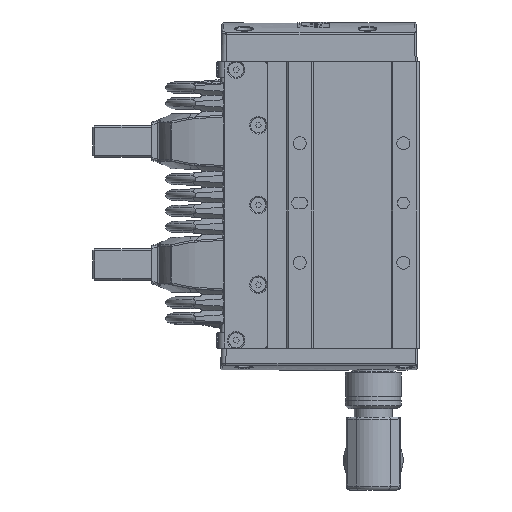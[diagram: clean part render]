
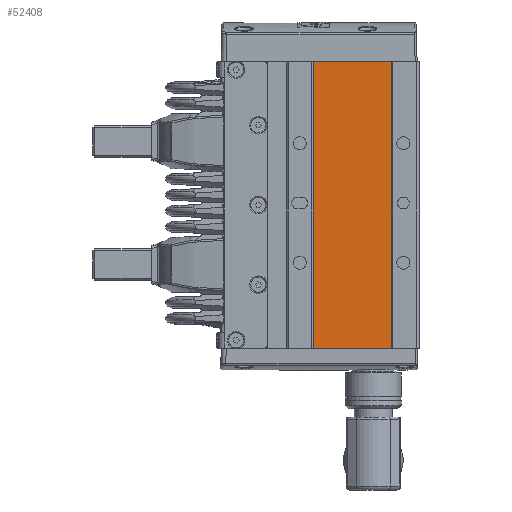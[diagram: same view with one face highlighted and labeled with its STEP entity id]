
A CAD part, left-side view. The second image highlights one B-rep face of the part: STEP entity #52408.
In plain terms, the highlighted planar face has unit normal (-1, 0, 0).
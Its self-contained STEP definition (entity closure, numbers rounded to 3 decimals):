
#7103=LINE('',#116846,#10510);
#7121=LINE('',#116900,#10528);
#7141=LINE('',#116938,#10548);
#7142=LINE('',#116940,#10549);
#10510=VECTOR('',#66042,1000.);
#10528=VECTOR('',#66090,1000.);
#10548=VECTOR('',#66116,1000.);
#10549=VECTOR('',#66119,1000.);
#13929=FACE_OUTER_BOUND('',#16903,.T.);
#16903=EDGE_LOOP('',(#42268,#42269,#42270,#42271));
#23839=VERTEX_POINT('',#116843);
#23840=VERTEX_POINT('',#116845);
#23860=VERTEX_POINT('',#116897);
#23861=VERTEX_POINT('',#116899);
#30378=EDGE_CURVE('',#23840,#23839,#7103,.T.);
#30405=EDGE_CURVE('',#23860,#23861,#7121,.T.);
#30426=EDGE_CURVE('',#23860,#23840,#7141,.T.);
#30427=EDGE_CURVE('',#23861,#23839,#7142,.T.);
#42268=ORIENTED_EDGE('',*,*,#30378,.T.);
#42269=ORIENTED_EDGE('',*,*,#30427,.F.);
#42270=ORIENTED_EDGE('',*,*,#30405,.F.);
#42271=ORIENTED_EDGE('',*,*,#30426,.T.);
#50214=PLANE('',#56668);
#52408=ADVANCED_FACE('',(#13929),#50214,.F.);
#56668=AXIS2_PLACEMENT_3D('',#116939,#66117,#66118);
#66042=DIRECTION('',(0.,-1.,0.));
#66090=DIRECTION('',(0.,-1.,0.));
#66116=DIRECTION('',(0.,0.,-1.));
#66117=DIRECTION('center_axis',(1.,0.,0.));
#66118=DIRECTION('ref_axis',(0.,1.,0.));
#66119=DIRECTION('',(0.,0.,-1.));
#116843=CARTESIAN_POINT('',(-15.2,6.997,-36.5));
#116845=CARTESIAN_POINT('',(-15.2,26.65,-36.5));
#116846=CARTESIAN_POINT('',(-15.2,26.65,-36.5));
#116897=CARTESIAN_POINT('',(-15.2,26.65,35.5));
#116899=CARTESIAN_POINT('',(-15.2,6.997,35.5));
#116900=CARTESIAN_POINT('',(-15.2,26.65,35.5));
#116938=CARTESIAN_POINT('',(-15.2,26.65,35.5));
#116939=CARTESIAN_POINT('Origin',(-15.2,26.65,35.5));
#116940=CARTESIAN_POINT('',(-15.2,6.997,35.5));
